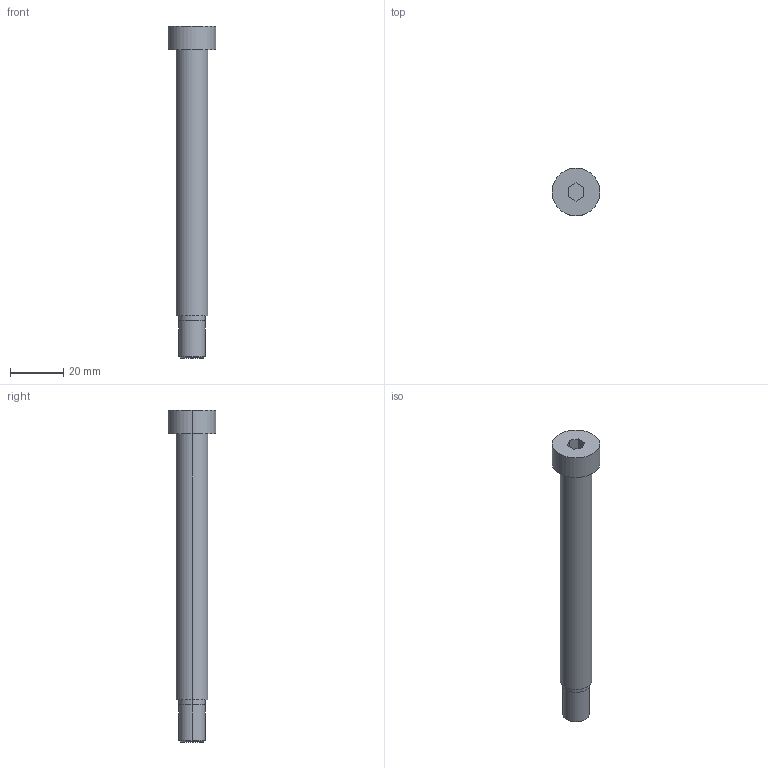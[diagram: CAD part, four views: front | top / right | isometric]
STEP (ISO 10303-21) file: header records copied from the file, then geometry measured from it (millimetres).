
FILE_DESCRIPTION (( 'STEP AP214' ), '1' );
FILE_NAME ('BruyRubio_TPM__10_x_100.STEP', '2019-12-22T23:20:34', ( '' ), ( '' ), 'SwSTEP 2.0', 'SolidWorks 2017', '' );
FILE_SCHEMA (( 'AUTOMOTIVE_DESIGN' ));
Length unit declared in the file: millimetre
Products named in the file (1): BruyRubio_TPM__10_x_100
Bounding box: 18 x 18 x 125 mm (x, y, z)
Volume: 14695.5 mm3; surface area: 6180.2 mm2
Topology: 2 solids, 2 shells, 27 faces, 56 edges, 36 vertices
Faces by surface type: plane 13, cylinder 12, cone 2
Entity records: 1066 total; most frequent: DIRECTION 136, CARTESIAN_POINT 120, ORIENTED_EDGE 112, EDGE_CURVE 56, AXIS2_PLACEMENT_3D 52, VERTEX_POINT 36, EDGE_LOOP 32, LINE 32
